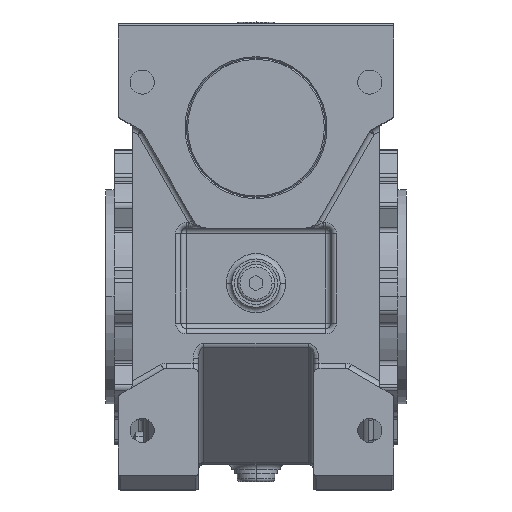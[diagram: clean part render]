
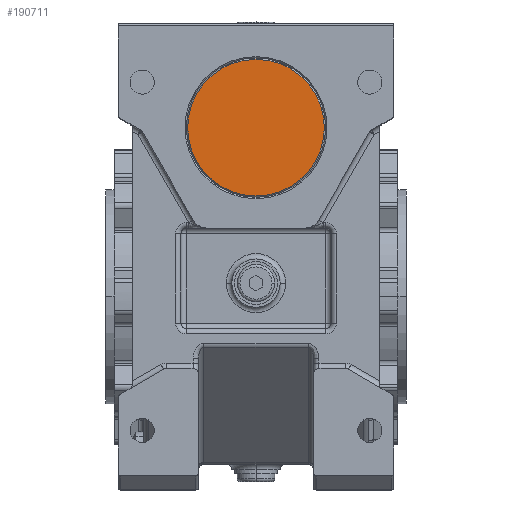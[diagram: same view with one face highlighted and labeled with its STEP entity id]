
A CAD part, top view. The second image highlights one B-rep face of the part: STEP entity #190711.
In plain terms, the highlighted planar face has unit normal (0, 0, 1).
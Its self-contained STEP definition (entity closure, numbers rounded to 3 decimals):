
#114471 = EDGE_CURVE ( 'NONE', #114474, #114482, #146448, .T. ) ;
#114474 = VERTEX_POINT ( 'NONE', #146438 ) ;
#114482 = VERTEX_POINT ( 'NONE', #146422 ) ;
#129779 = DIRECTION ( 'NONE',  ( -1., 0., 0. ) ) ;
#129780 = DIRECTION ( 'NONE',  ( 0., 0., -1. ) ) ;
#129781 = AXIS2_PLACEMENT_3D ( 'NONE', #129787, #129780, #129779 ) ;
#129782 = CIRCLE ( 'NONE', #129781, 25.5 ) ;
#129787 = CARTESIAN_POINT ( 'NONE',  ( 0., 63., 72. ) ) ;
#129921 = DIRECTION ( 'NONE',  ( 1., 0., 0. ) ) ;
#129922 = DIRECTION ( 'NONE',  ( 0., 0., 1. ) ) ;
#129923 = CARTESIAN_POINT ( 'NONE',  ( 0., 63., 72. ) ) ;
#129924 = AXIS2_PLACEMENT_3D ( 'NONE', #129923, #129922, #129921 ) ;
#129926 = PLANE ( 'NONE',  #129924 ) ;
#129940 = FACE_OUTER_BOUND ( 'NONE', #190712, .T. ) ;
#146422 = CARTESIAN_POINT ( 'NONE',  ( 25.5, 63., 72. ) ) ;
#146438 = CARTESIAN_POINT ( 'NONE',  ( -25.5, 63., 72. ) ) ;
#146440 = DIRECTION ( 'NONE',  ( -1., 0., 0. ) ) ;
#146442 = DIRECTION ( 'NONE',  ( 0., 0., -1. ) ) ;
#146444 = CARTESIAN_POINT ( 'NONE',  ( 0., 63., 72. ) ) ;
#146446 = AXIS2_PLACEMENT_3D ( 'NONE', #146444, #146442, #146440 ) ;
#146448 = CIRCLE ( 'NONE', #146446, 25.5 ) ;
#190612 = EDGE_CURVE ( 'NONE', #114482, #114474, #129782, .T. ) ;
#190711 = ADVANCED_FACE ( 'NONE', ( #129940 ), #129926, .T. ) ;
#190712 = EDGE_LOOP ( 'NONE', ( #190713, #190714 ) ) ;
#190713 = ORIENTED_EDGE ( 'NONE', *, *, #114471, .F. ) ;
#190714 = ORIENTED_EDGE ( 'NONE', *, *, #190612, .F. ) ;
